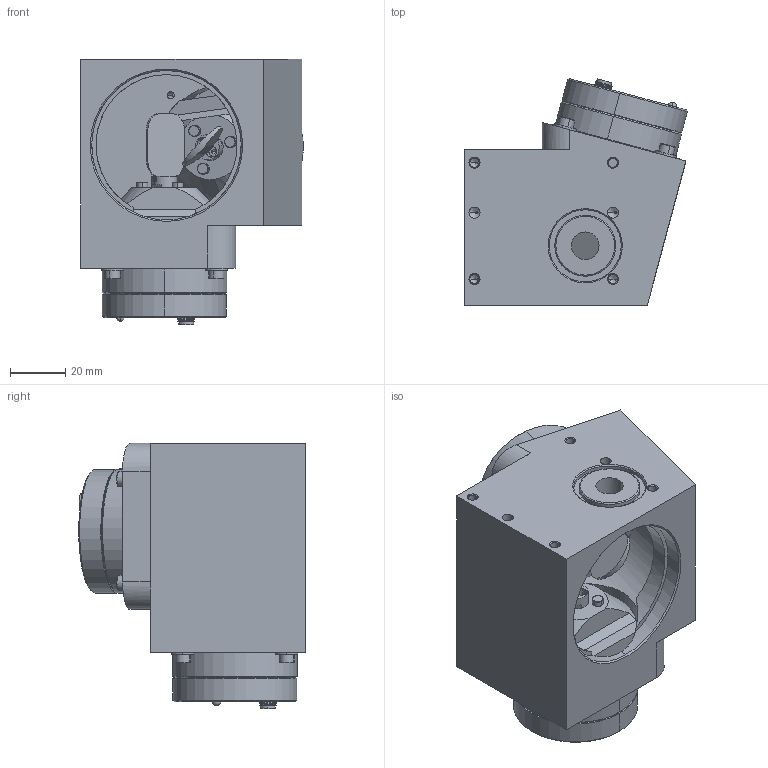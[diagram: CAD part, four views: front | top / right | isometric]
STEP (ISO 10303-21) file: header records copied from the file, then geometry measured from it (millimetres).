
FILE_DESCRIPTION (( 'STEP AP214' ), '1' );
FILE_NAME ('2D_MSA_A10mini_SiC.STEP', '2019-06-06T09:53:07', ( '' ), ( '' ), 'SwSTEP 2.0', 'SolidWorks 2011', '' );
FILE_SCHEMA (( 'AUTOMOTIVE_DESIGN' ));
Length unit declared in the file: millimetre
Products named in the file (11): socket head cap screw_iso_ISO 4762 M3 x 8 --- 8N; plain washer 10673 type snl_iso_ISO 10673-3.2-N; RTAY_A10_SiC; A10_SiC_MirrorY; RTAX_A10_SiC; socket head cap screw_iso_ISO 4762 M2 x 5 --- 5N; A10_SiC_MirrorX; Scanner_Draw06_4; Scanner_Solid; rhothor_motorblokmini_A10_2; 2D_MSA_A10mini_SiC
Assembly tree (29 placements, depth 3):
  2D_MSA_A10mini_SiC
    socket head cap screw_iso_ISO 4762 M3 x 8 --- 8N  x8
    rhothor_motorblokmini_A10_2
    plain washer 10673 type snl_iso_ISO 10673-3.2-N  x8
    RTAY_A10_SiC
      A10_SiC_MirrorY
      socket head cap screw_iso_ISO 4762 M2 x 5 --- 5N  x2
      Scanner_Solid
      Scanner_Draw06_4
    RTAX_A10_SiC
      socket head cap screw_iso_ISO 4762 M2 x 5 --- 5N  x2
      Scanner_Draw06_4
      Scanner_Solid
      A10_SiC_MirrorX
Bounding box: 80.46 x 81.84 x 95.8 mm (x, y, z)
Volume: 259865 mm3; surface area: 62836.9 mm2
Topology: 27 solids, 27 shells, 822 faces, 1852 edges, 1101 vertices
Faces by surface type: plane 324, cylinder 243, cone 184, torus 64, bspline 7
Entity records: 13200 total; most frequent: CARTESIAN_POINT 2526, DIRECTION 1972, ORIENTED_EDGE 1724, EDGE_CURVE 862, AXIS2_PLACEMENT_3D 778, VERTEX_POINT 531, EDGE_LOOP 425, VECTOR 416
